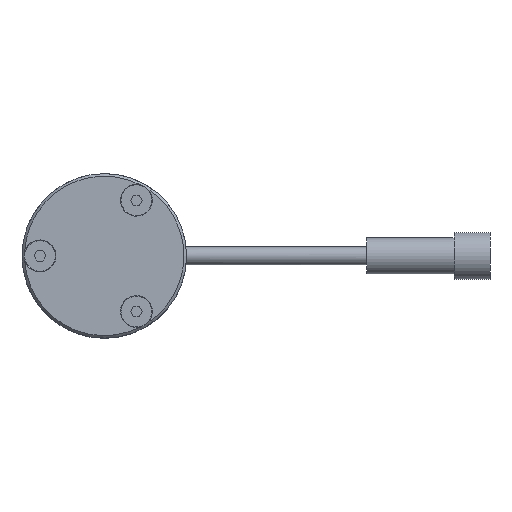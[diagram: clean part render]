
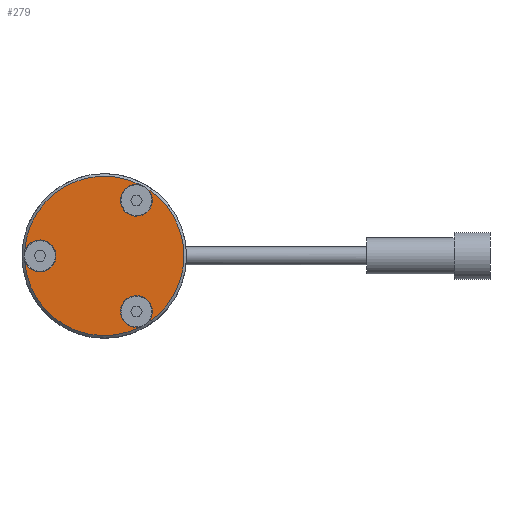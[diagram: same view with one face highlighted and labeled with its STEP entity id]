
A CAD part, top view. The second image highlights one B-rep face of the part: STEP entity #279.
In plain terms, the highlighted planar face has unit normal (0, 0, 1).
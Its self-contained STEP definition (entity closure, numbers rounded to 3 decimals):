
#279=ADVANCED_FACE('',(#672),#673,.T.);
#672=FACE_OUTER_BOUND('',#1172,.T.);
#673=PLANE('',#1173);
#1172=EDGE_LOOP('',(#1846,#1847,#1848,#1849,#1850,#1851));
#1173=AXIS2_PLACEMENT_3D('',#1852,#1853,#1854);
#1846=ORIENTED_EDGE('',*,*,#2547,.T.);
#1847=ORIENTED_EDGE('',*,*,#2552,.F.);
#1848=ORIENTED_EDGE('',*,*,#2514,.T.);
#1849=ORIENTED_EDGE('',*,*,#2553,.F.);
#1850=ORIENTED_EDGE('',*,*,#2518,.T.);
#1851=ORIENTED_EDGE('',*,*,#2554,.F.);
#1852=CARTESIAN_POINT('',(-15.5,0.0,25.));
#1853=DIRECTION('',(0.0,0.,1.0));
#1854=DIRECTION('',(0.0,-1.0,0.));
#2514=EDGE_CURVE('',#2911,#2912,#2914,.T.);
#2518=EDGE_CURVE('',#2918,#2919,#2921,.T.);
#2547=EDGE_CURVE('',#2960,#2961,#2963,.T.);
#2552=EDGE_CURVE('',#2911,#2961,#2970,.T.);
#2553=EDGE_CURVE('',#2918,#2912,#2971,.T.);
#2554=EDGE_CURVE('',#2960,#2919,#2972,.T.);
#2911=VERTEX_POINT('',#3496);
#2912=VERTEX_POINT('',#3497);
#2914=CIRCLE('',#3504,3.1);
#2918=VERTEX_POINT('',#3508);
#2919=VERTEX_POINT('',#3509);
#2921=CIRCLE('',#3516,3.1);
#2960=VERTEX_POINT('',#3555);
#2961=VERTEX_POINT('',#3556);
#2963=CIRCLE('',#3563,3.1);
#2970=CIRCLE('',#3570,15.5);
#2971=CIRCLE('',#3571,15.5);
#2972=CIRCLE('',#3572,15.5);
#3496=CARTESIAN_POINT('',(6.985,-13.837,25.));
#3497=CARTESIAN_POINT('',(8.491,-12.968,25.));
#3504=AXIS2_PLACEMENT_3D('',#4264,#4265,#4266);
#3508=CARTESIAN_POINT('',(8.491,12.968,25.));
#3509=CARTESIAN_POINT('',(6.985,13.837,25.));
#3516=AXIS2_PLACEMENT_3D('',#4270,#4271,#4272);
#3555=CARTESIAN_POINT('',(-15.476,0.869,25.));
#3556=CARTESIAN_POINT('',(-15.476,-0.869,25.));
#3563=AXIS2_PLACEMENT_3D('',#4315,#4316,#4317);
#3570=AXIS2_PLACEMENT_3D('',#4324,#4325,#4326);
#3571=AXIS2_PLACEMENT_3D('',#4327,#4328,#4329);
#3572=AXIS2_PLACEMENT_3D('',#4330,#4331,#4332);
#4264=CARTESIAN_POINT('',(6.25,-10.825,25.));
#4265=DIRECTION('',(0.0,0.0,-1.0));
#4266=DIRECTION('',(1.0,0.0,0.0));
#4270=CARTESIAN_POINT('',(6.25,10.825,25.));
#4271=DIRECTION('',(0.0,0.0,-1.0));
#4272=DIRECTION('',(1.0,0.0,0.0));
#4315=CARTESIAN_POINT('',(-12.5,0.,25.));
#4316=DIRECTION('',(0.0,0.0,-1.0));
#4317=DIRECTION('',(1.0,0.0,0.0));
#4324=CARTESIAN_POINT('',(0.0,0.0,25.));
#4325=DIRECTION('',(-0.0,0.,-1.0));
#4326=DIRECTION('',(0.0,1.0,0.));
#4327=CARTESIAN_POINT('',(0.0,0.0,25.));
#4328=DIRECTION('',(-0.0,0.,-1.0));
#4329=DIRECTION('',(0.0,1.0,0.));
#4330=CARTESIAN_POINT('',(0.0,0.0,25.));
#4331=DIRECTION('',(-0.0,0.,-1.0));
#4332=DIRECTION('',(0.0,1.0,0.));
